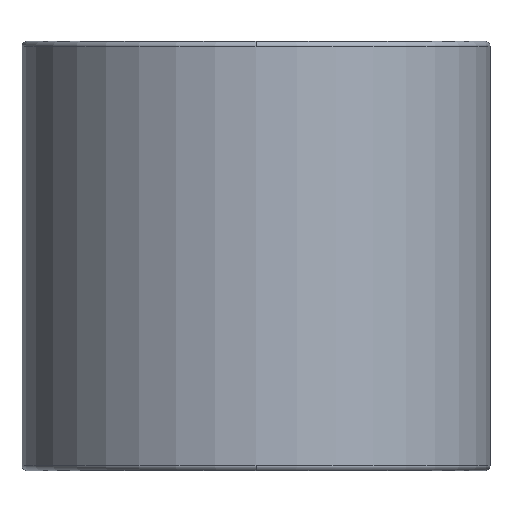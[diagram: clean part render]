
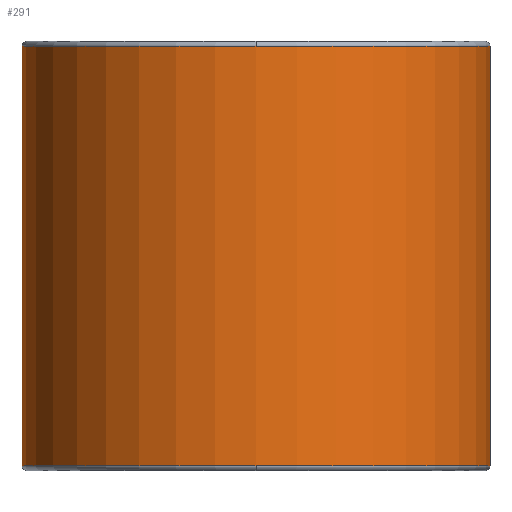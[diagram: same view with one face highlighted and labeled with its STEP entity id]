
A CAD part, front view. The second image highlights one B-rep face of the part: STEP entity #291.
In plain terms, the highlighted cylindrical face has radius 19.625 mm (diameter 39.25 mm), a partial arc.
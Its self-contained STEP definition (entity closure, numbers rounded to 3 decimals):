
#196=CARTESIAN_POINT('',(0.0,-19.625,24.1));
#197=VERTEX_POINT('',#196);
#223=CARTESIAN_POINT('',(-19.625,0.,24.1));
#224=VERTEX_POINT('',#223);
#232=CARTESIAN_POINT('',(0.0,0.,24.1));
#233=DIRECTION('',(0.0,0.0,1.0));
#234=DIRECTION('',(1.0,0.0,0.0));
#235=AXIS2_PLACEMENT_3D('',#232,#233,#234);
#236=CIRCLE('',#235,19.625);
#237=EDGE_CURVE('',#224,#197,#236,.T.);
#242=CARTESIAN_POINT('',(0.0,0.,6.5));
#243=DIRECTION('',(0.0,0.,1.0));
#244=DIRECTION('',(1.0,0.0,0.0));
#245=AXIS2_PLACEMENT_3D('',#242,#243,#244);
#246=CYLINDRICAL_SURFACE('',#245,19.625);
#247=CARTESIAN_POINT('',(19.625,0.,24.1));
#248=VERTEX_POINT('',#247);
#249=CARTESIAN_POINT('',(19.625,0.,-11.1));
#250=VERTEX_POINT('',#249);
#251=CARTESIAN_POINT('',(19.625,0.,24.1));
#252=DIRECTION('',(0.0,0.0,-1.0));
#253=VECTOR('',#252,35.2);
#254=LINE('',#251,#253);
#255=EDGE_CURVE('',#248,#250,#254,.T.);
#256=ORIENTED_EDGE('',*,*,#255,.F.);
#257=CARTESIAN_POINT('',(0.0,0.,24.1));
#258=DIRECTION('',(0.0,0.0,1.0));
#259=DIRECTION('',(1.0,0.0,0.0));
#260=AXIS2_PLACEMENT_3D('',#257,#258,#259);
#261=CIRCLE('',#260,19.625);
#262=EDGE_CURVE('',#197,#248,#261,.T.);
#263=ORIENTED_EDGE('',*,*,#262,.F.);
#264=ORIENTED_EDGE('',*,*,#237,.F.);
#265=CARTESIAN_POINT('',(-19.625,0.,-11.1));
#266=VERTEX_POINT('',#265);
#267=CARTESIAN_POINT('',(-19.625,0.,24.1));
#268=DIRECTION('',(0.0,0.0,-1.0));
#269=VECTOR('',#268,35.2);
#270=LINE('',#267,#269);
#271=EDGE_CURVE('',#224,#266,#270,.T.);
#272=ORIENTED_EDGE('',*,*,#271,.T.);
#273=CARTESIAN_POINT('',(0.0,-19.625,-11.1));
#274=VERTEX_POINT('',#273);
#275=CARTESIAN_POINT('',(0.0,0.,-11.1));
#276=DIRECTION('',(0.0,0.0,1.0));
#277=DIRECTION('',(1.0,0.0,0.0));
#278=AXIS2_PLACEMENT_3D('',#275,#276,#277);
#279=CIRCLE('',#278,19.625);
#280=EDGE_CURVE('',#266,#274,#279,.T.);
#281=ORIENTED_EDGE('',*,*,#280,.T.);
#282=CARTESIAN_POINT('',(0.0,0.,-11.1));
#283=DIRECTION('',(0.0,0.0,1.0));
#284=DIRECTION('',(1.0,0.0,0.0));
#285=AXIS2_PLACEMENT_3D('',#282,#283,#284);
#286=CIRCLE('',#285,19.625);
#287=EDGE_CURVE('',#274,#250,#286,.T.);
#288=ORIENTED_EDGE('',*,*,#287,.T.);
#289=EDGE_LOOP('',(#256,#263,#264,#272,#281,#288));
#290=FACE_OUTER_BOUND('',#289,.T.);
#291=ADVANCED_FACE('',(#290),#246,.T.);
